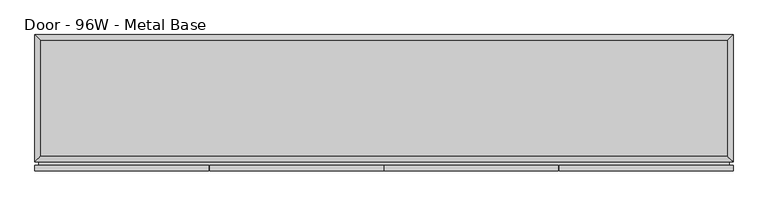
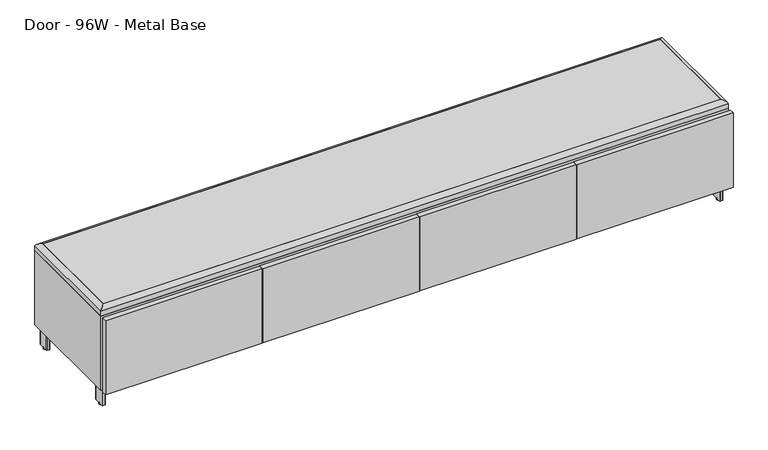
"""IFC4 building model written with IfcOpenShell, lengths in millimetres: furniture geometry, Steelcase Coalesse - Exponents - Seating - Bench : Door - 96W - Metal Base."""

from ifc_helpers import new_model, si_unit, point, frame, frame_2d, origin, origin_with_axes, place, context, project, spatial, polyline, circle_curve, ellipse_curve, trimmed, segment, composite_curve, outline, extrude, faceted_brep, source, transform, mapped, element, save
from ifc_brep_helpers import plane_surface, cylinder_surface, advanced_brep


def door_96w_metal_base_4c753da5(model_context):
    return source(origin(), model_context, "Body", "SolidModel", [
        extrude(outline(composite_curve([segment(trimmed(circle_curve(frame_2d((1831.848, 252.476)), 1.524), [point((1831.848, 254.0))], [point((1833.372, 252.476))], False, "CARTESIAN"), True, "CONTINUOUS"), segment(polyline([(1833.372, 252.476), (1833.372, 217.424)]), True, "CONTINUOUS"), segment(trimmed(circle_curve(frame_2d((1831.848, 217.424)), 1.524), [point((1833.372, 217.424))], [point((1831.848, 215.9))], False, "CARTESIAN"), True, "CONTINUOUS"), segment(polyline([(1831.848, 215.9), (1815.958829, 215.9)]), True, "CONTINUOUS"), segment(trimmed(circle_curve(frame_2d((1815.958829, 217.536829)), 1.636829), [point((1815.958829, 215.9))], [point((1814.322, 217.536829))], False, "CARTESIAN"), True, "CONTINUOUS"), segment(polyline([(1814.322, 217.536829), (1814.322, 252.476)]), True, "CONTINUOUS"), segment(trimmed(circle_curve(frame_2d((1815.846, 252.476)), 1.524), [point((1814.322, 252.476))], [point((1815.846, 254.0))], False, "CARTESIAN"), True, "CONTINUOUS"), segment(polyline([(1815.846, 254.0), (1831.848, 254.0)]), True, "CONTINUOUS")], self_intersect=False)), frame((0.0, 0.0, 6.3754), z_axis=(0.0, 0.0, 1.0), x_axis=(1.0, 0.0, 0.0)), (0.0, 0.0, 1.0), 73.152),
        extrude(outline(polyline([(2438.4, 0.0), (2438.4, -19.05), (1831.0098, -19.05), (1831.0098, 0.0), (2438.4, 0.0)])), frame((0.0, 0.0, 82.55), z_axis=(0.0, 0.0, 1.0), x_axis=(1.0, 0.0, 0.0)), (0.0, 0.0, 1.0), 304.8),
        extrude(outline(polyline([(1828.0126, 0.0), (1828.0126, -19.05), (1220.6224, -19.05), (1220.6224, 0.0), (1828.0126, 0.0)])), frame((0.0, 0.0, 82.55), z_axis=(0.0, 0.0, 1.0), x_axis=(1.0, 0.0, 0.0)), (0.0, 0.0, 1.0), 304.8),
        extrude(outline(polyline([(1217.8284, 0.0), (1217.8284, -19.05), (610.4382, -19.05), (610.4382, 0.0), (1217.8284, 0.0)])), frame((0.0, 0.0, 82.55), z_axis=(0.0, 0.0, 1.0), x_axis=(1.0, 0.0, 0.0)), (0.0, 0.0, 1.0), 304.8),
        extrude(outline(polyline([(607.3902, 0.0), (607.3902, -19.05), (0.0, -19.05), (0.0, 0.0), (607.3902, 0.0)])), frame((0.0, 0.0, 82.55), z_axis=(0.0, 0.0, 1.0), x_axis=(1.0, 0.0, 0.0)), (0.0, 0.0, 1.0), 304.8),
        extrude(outline(composite_curve([segment(trimmed(circle_curve(frame_2d((1823.8695581, 234.844279)), 6.35), [point((1817.5195581, 234.844279))], [point((1830.2195581, 234.844279))], False, "CARTESIAN"), True, "CONTINUOUS"), segment(trimmed(circle_curve(frame_2d((1823.8695581, 234.844279)), 6.35), [point((1830.2195581, 234.844279))], [point((1817.5195581, 234.844279))], False, "CARTESIAN"), True, "CONTINUOUS")], self_intersect=False)), origin_with_axes(), (0.0, 0.0, 1.0), 6.3754),
        extrude(outline(polyline([(1879.7082257, 285.75), (1879.7082257, 184.15), (1778.1082257, 184.15), (1778.1082257, 285.75), (1879.7082257, 285.75)])), frame((0.0, 0.0, 79.5274), z_axis=(0.0, 0.0, 1.0), x_axis=(1.0, 0.0, 0.0)), (0.0, 0.0, 1.0), 3.048),
        faceted_brep([(2412.619, 428.1633485, 82.55), (1833.372, 251.7961151, 82.55), (1833.372, 218.1038849, 82.55), (2412.619, 37.8529725, 82.55), (2412.619, 57.8040065, 82.55), (1843.3498412, 234.95, 82.55), (2412.619, 408.2123144, 82.55), (2412.619, 428.1633485, 34.925), (2412.619, 408.2123144, 34.925), (1843.4031998, 234.9333958, 34.925), (2412.619, 57.8040065, 34.925), (2412.619, 37.8529725, 34.925), (1833.372, 218.1038849, 34.925), (1833.372, 251.7961151, 34.925)], [[[0, 1, 2, 3, 4, 5, 6]], [[7, 8, 9, 10, 11, 12, 13]], [[1, 0, 7, 13]], [[2, 1, 13, 12]], [[3, 2, 12, 11]], [[4, 3, 11, 10]], [[5, 4, 10, 9]], [[6, 5, 9, 8]], [[0, 6, 8, 7]]]),
        extrude(outline(polyline([(1209.548, 12.7), (623.824, 12.7), (623.824, 438.15), (1209.548, 438.15), (1209.548, 12.7)])), frame((0.0, 0.0, 215.9), z_axis=(0.0, 0.0, 1.0), x_axis=(1.0, 0.0, 0.0)), (0.0, 0.0, 1.0), 19.05),
        advanced_brep(
        [(0.0, 12.7, 406.6283237), (0.0, 12.7, 387.35), (2438.4, 12.7, 387.35), (2438.4, 12.7, 406.6283237), (2438.4, 457.2, 406.6283237), (2438.4, 457.2, 387.35), (0.0, 457.2, 387.35), (0.0, 457.2, 406.6283237), (2419.35, 31.75, 406.6283237), (2419.35, 438.15, 406.6283237), (19.05, 438.15, 406.6283237), (19.05, 31.75, 406.6283237), (2419.35, 438.15, 419.0696271), (2419.35, 31.75, 419.0696271), (19.05, 31.75, 419.0696271), (19.05, 438.15, 419.0696271)],
        [
            (0, 1),
            (1, 2),
            (2, 3),
            (3, 0),
            (4, 5),
            (5, 6),
            (6, 7),
            (7, 4),
            (8, 9),
            (9, 10),
            (10, 11),
            (11, 8),
            (0, 7),
            (6, 1),
            (5, 2),
            (4, 3),
            (12, 9),
            (8, 13),
            (13, 12),
            (13, 3, ellipse_curve(frame((2417.7973666, 33.3026334, 395.8870134), z_axis=(0.7071067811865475, 0.7071067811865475, 0.0), x_axis=(-0.7071067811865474, 0.7071067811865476, 0.0)), 32.8586138, 23.2345486)),
            (4, 12, ellipse_curve(frame((2417.7973666, 436.5973666, 395.8870134), z_axis=(0.7071067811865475, -0.7071067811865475, 0.0), x_axis=(0.7071067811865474, 0.7071067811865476, 0.0)), 32.8586138, 23.2345486)),
            (11, 14),
            (14, 13),
            (14, 0, ellipse_curve(frame((20.6026334, 33.3026334, 395.8870134), z_axis=(0.7071067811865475, -0.7071067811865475, 0.0), x_axis=(0.7071067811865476, 0.7071067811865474, 0.0)), 32.8586138, 23.2345486)),
            (10, 15),
            (15, 14),
            (15, 7, ellipse_curve(frame((20.6026334, 436.5973666, 395.8870134), z_axis=(-0.7071067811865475, -0.7071067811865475, 0.0), x_axis=(0.7071067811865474, -0.7071067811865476, 0.0)), 32.8586138, 23.2345486)),
            (12, 15),
        ],
        [
            plane_surface(frame((0.0, 12.7, 406.6283237), z_axis=(0.0, -1.0, 0.0), x_axis=(-1.0, 0.0, 0.0))),
            plane_surface(frame((0.0, 457.2, 406.6283237), z_axis=(0.0, 1.0, 0.0), x_axis=(1.0, 0.0, 0.0))),
            plane_surface(frame((2438.4, 12.7, 406.6283237), z_axis=(0.0, 0.0, 1.0), x_axis=(0.0, 1.0, 0.0))),
            plane_surface(frame((0.0, 12.7, 406.6283237), z_axis=(-1.0, 0.0, 1.677988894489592e-12), x_axis=(0.0, 1.0, 0.0))),
            plane_surface(frame((0.0, 12.7, 387.35), z_axis=(0.0, 0.0, -1.0), x_axis=(0.0, 1.0, 0.0))),
            plane_surface(frame((2438.4, 12.7, 387.35), z_axis=(1.0, 0.0, 0.0), x_axis=(0.0, 1.0, 0.0))),
            plane_surface(frame((2419.35, 438.15, 406.6284102), z_axis=(-1.0, 0.0, 0.0), x_axis=(0.0, -1.0, 0.0))),
            cylinder_surface(frame((2417.7973666, 457.2, 395.8870134), z_axis=(0.0, 1.0, 0.0), x_axis=(1.0, 0.0, 0.0)), 23.2345486),
            plane_surface(frame((2419.35, 31.75, 406.6284102), z_axis=(0.0, 1.0, 0.0), x_axis=(-1.0, 0.0, 0.0))),
            cylinder_surface(frame((2438.4, 33.3026334, 395.8870134), z_axis=(1.0, 0.0, 0.0), x_axis=(0.0, -1.0, 0.0)), 23.2345486),
            plane_surface(frame((19.05, 31.75, 406.6284102), z_axis=(1.0, 0.0, 0.0), x_axis=(0.0, 1.0, 0.0))),
            cylinder_surface(frame((20.6026334, 12.7, 395.8870134), z_axis=(0.0, -1.0, 0.0), x_axis=(-1.0, 0.0, 0.0)), 23.2345486),
            plane_surface(frame((19.05, 438.15, 406.6284102), z_axis=(0.0, -1.0, 0.0), x_axis=(1.0, 0.0, 0.0))),
            cylinder_surface(frame((0.0, 436.5973666, 395.8870134), z_axis=(-1.0, 0.0, 0.0), x_axis=(0.0, 1.0, 0.0)), 23.2345486),
        ],
        [
            (0, [[1, 2, 3, 4]]),
            (1, [[5, 6, 7, 8]]),
            (2, [[9, 10, 11, 12]]),
            (3, [[-1, 13, -7, 14]]),
            (4, [[-2, -14, -6, 15]]),
            (5, [[-3, -15, -5, 16]]),
            (6, [[17, -9, 18, 19]]),
            (7, [[-19, 20, -16, 21]]),
            (8, [[-18, -12, 22, 23]]),
            (9, [[-20, -23, 24, -4]]),
            (10, [[-22, -11, 25, 26]]),
            (11, [[-24, -26, 27, -13]]),
            (12, [[-17, 28, -25, -10]]),
            (13, [[-21, -8, -27, -28]]),
        ],
    ),
        extrude(outline(polyline([(1814.322, 12.7), (1228.598, 12.7), (1228.598, 438.15), (1814.322, 438.15), (1814.322, 12.7)])), frame((0.0, 0.0, 215.9), z_axis=(0.0, 0.0, 1.0), x_axis=(1.0, 0.0, 0.0)), (0.0, 0.0, 1.0), 19.05),
        extrude(outline(composite_curve([segment(trimmed(circle_curve(frame_2d((1219.3711957, 234.844279)), 6.35), [point((1213.0211957, 234.844279))], [point((1225.7211957, 234.844279))], False, "CARTESIAN"), True, "CONTINUOUS"), segment(trimmed(circle_curve(frame_2d((1219.3711957, 234.844279)), 6.35), [point((1225.7211957, 234.844279))], [point((1213.0211957, 234.844279))], False, "CARTESIAN"), True, "CONTINUOUS")], self_intersect=False)), origin_with_axes(), (0.0, 0.0, 1.0), 6.3754),
        extrude(outline(composite_curve([segment(trimmed(circle_curve(frame_2d((1227.074, 252.476)), 1.524), [point((1227.074, 254.0))], [point((1228.598, 252.476))], False, "CARTESIAN"), True, "CONTINUOUS"), segment(polyline([(1228.598, 252.476), (1228.598, 217.424)]), True, "CONTINUOUS"), segment(trimmed(circle_curve(frame_2d((1227.074, 217.424)), 1.524), [point((1228.598, 217.424))], [point((1227.074, 215.9))], False, "CARTESIAN"), True, "CONTINUOUS"), segment(polyline([(1227.074, 215.9), (1211.184829, 215.9)]), True, "CONTINUOUS"), segment(trimmed(circle_curve(frame_2d((1211.184829, 217.536829)), 1.636829), [point((1211.184829, 215.9))], [point((1209.548, 217.536829))], False, "CARTESIAN"), True, "CONTINUOUS"), segment(polyline([(1209.548, 217.536829), (1209.548, 252.476)]), True, "CONTINUOUS"), segment(trimmed(circle_curve(frame_2d((1211.072, 252.476)), 1.524), [point((1209.548, 252.476))], [point((1211.072, 254.0))], False, "CARTESIAN"), True, "CONTINUOUS"), segment(polyline([(1211.072, 254.0), (1227.074, 254.0)]), True, "CONTINUOUS")], self_intersect=False)), frame((0.0, 0.0, 6.3754), z_axis=(0.0, 0.0, 1.0), x_axis=(1.0, 0.0, 0.0)), (0.0, 0.0, 1.0), 73.152),
        extrude(outline(polyline([(1265.2060257, 285.75), (1265.2060257, 184.15), (1163.6060257, 184.15), (1163.6060257, 285.75), (1265.2060257, 285.75)])), frame((0.0, 0.0, 79.5274), z_axis=(0.0, 0.0, 1.0), x_axis=(1.0, 0.0, 0.0)), (0.0, 0.0, 1.0), 3.048),
        extrude(outline(composite_curve([segment(trimmed(circle_curve(frame_2d((614.4757069, 234.844279)), 6.35), [point((608.1257069, 234.844279))], [point((620.8257069, 234.844279))], False, "CARTESIAN"), True, "CONTINUOUS"), segment(trimmed(circle_curve(frame_2d((614.4757069, 234.844279)), 6.35), [point((620.8257069, 234.844279))], [point((608.1257069, 234.844279))], False, "CARTESIAN"), True, "CONTINUOUS")], self_intersect=False)), origin_with_axes(), (0.0, 0.0, 1.0), 6.3754),
        extrude(outline(composite_curve([segment(trimmed(circle_curve(frame_2d((622.3, 252.476)), 1.524), [point((622.3, 254.0))], [point((623.824, 252.476))], False, "CARTESIAN"), True, "CONTINUOUS"), segment(polyline([(623.824, 252.476), (623.824, 217.424)]), True, "CONTINUOUS"), segment(trimmed(circle_curve(frame_2d((622.3, 217.424)), 1.524), [point((623.824, 217.424))], [point((622.3, 215.9))], False, "CARTESIAN"), True, "CONTINUOUS"), segment(polyline([(622.3, 215.9), (606.410829, 215.9)]), True, "CONTINUOUS"), segment(trimmed(circle_curve(frame_2d((606.410829, 217.536829)), 1.636829), [point((606.410829, 215.9))], [point((604.774, 217.536829))], False, "CARTESIAN"), True, "CONTINUOUS"), segment(polyline([(604.774, 217.536829), (604.774, 252.476)]), True, "CONTINUOUS"), segment(trimmed(circle_curve(frame_2d((606.298, 252.476)), 1.524), [point((604.774, 252.476))], [point((606.298, 254.0))], False, "CARTESIAN"), True, "CONTINUOUS"), segment(polyline([(606.298, 254.0), (622.3, 254.0)]), True, "CONTINUOUS")], self_intersect=False)), frame((0.0, 0.0, 6.3754), z_axis=(0.0, 0.0, 1.0), x_axis=(1.0, 0.0, 0.0)), (0.0, 0.0, 1.0), 73.152),
        extrude(outline(polyline([(1833.372, 438.15), (1833.372, 0.0), (1814.322, 0.0), (1814.322, 438.15), (1833.372, 438.15)])), frame((0.0, 0.0, 101.8032), z_axis=(0.0, 0.0, 1.0), x_axis=(1.0, 0.0, 0.0)), (0.0, 0.0, 1.0), 266.2936),
        extrude(outline(polyline([(1228.598, 438.15), (1228.598, 0.0), (1209.548, 0.0), (1209.548, 438.15), (1228.598, 438.15)])), frame((0.0, 0.0, 101.6), z_axis=(0.0, 0.0, 1.0), x_axis=(1.0, 0.0, 0.0)), (0.0, 0.0, 1.0), 266.7),
        faceted_brep([(2438.4, 12.7, 387.35), (0.0, 12.7, 387.35), (0.0, 12.7, 82.55), (2438.4, 12.7, 82.55), (19.05, 12.7, 368.0968), (604.774, 12.7, 368.0968), (604.774, 12.7, 101.8032), (19.05, 12.7, 101.8032), (623.824, 12.7, 368.0968), (2419.35, 12.7, 368.0968), (2419.35, 12.7, 101.8032), (623.824, 12.7, 101.8032), (2438.4, 457.2, 387.35), (2438.4, 457.2, 82.55), (0.0, 457.2, 82.55), (0.0, 457.2, 387.35), (604.774, 438.15, 368.0968), (19.05, 438.15, 368.0968), (19.05, 438.15, 101.8032), (604.774, 438.15, 101.8032), (2419.35, 438.15, 368.0968), (623.824, 438.15, 368.0968), (623.824, 438.15, 101.8032), (2419.35, 438.15, 101.8032)], [[[0, 1, 2, 3], [4, 5, 6, 7], [8, 9, 10, 11]], [[12, 13, 14, 15]], [[1, 0, 12, 15]], [[2, 1, 15, 14]], [[3, 2, 14, 13]], [[0, 3, 13, 12]], [[16, 17, 18, 19]], [[20, 21, 22, 23]], [[17, 16, 5, 4]], [[18, 17, 4, 7]], [[19, 18, 7, 6]], [[16, 19, 6, 5]], [[21, 20, 9, 8]], [[22, 21, 8, 11]], [[23, 22, 11, 10]], [[20, 23, 10, 9]]]),
        extrude(outline(polyline([(660.4, 285.75), (660.4, 184.15), (558.8, 184.15), (558.8, 285.75), (660.4, 285.75)])), frame((0.0, 0.0, 79.5274), z_axis=(0.0, 0.0, 1.0), x_axis=(1.0, 0.0, 0.0)), (0.0, 0.0, 1.0), 3.048),
        extrude(outline(composite_curve([segment(trimmed(circle_curve(frame_2d((19.163053, 47.5933344)), 6.35), [point((25.513053, 47.5933344))], [point((12.813053, 47.5933344))], False, "CARTESIAN"), True, "CONTINUOUS"), segment(trimmed(circle_curve(frame_2d((19.163053, 47.5933344)), 6.35), [point((12.813053, 47.5933344))], [point((25.513053, 47.5933344))], False, "CARTESIAN"), True, "CONTINUOUS")], self_intersect=False)), origin_with_axes(), (0.0, 0.0, 1.0), 6.3754),
        extrude(outline(composite_curve([segment(trimmed(circle_curve(frame_2d((14.224, 26.924)), 1.524), [point((14.224, 25.4))], [point((12.7, 26.924))], False, "CARTESIAN"), True, "CONTINUOUS"), segment(polyline([(12.7, 26.924), (12.7, 68.326)]), True, "CONTINUOUS"), segment(trimmed(circle_curve(frame_2d((14.224, 68.326)), 1.524), [point((12.7, 68.326))], [point((14.224, 69.85))], False, "CARTESIAN"), True, "CONTINUOUS"), segment(polyline([(14.224, 69.85), (23.661571, 69.85)]), True, "CONTINUOUS"), segment(trimmed(circle_curve(frame_2d((23.661571, 68.213171)), 1.636829), [point((23.661571, 69.85))], [point((25.2984, 68.213171))], False, "CARTESIAN"), True, "CONTINUOUS"), segment(polyline([(25.2984, 68.213171), (25.2984, 26.924)]), True, "CONTINUOUS"), segment(trimmed(circle_curve(frame_2d((23.7744, 26.924)), 1.524), [point((25.2984, 26.924))], [point((23.7744, 25.4))], False, "CARTESIAN"), True, "CONTINUOUS"), segment(polyline([(23.7744, 25.4), (14.224, 25.4)]), True, "CONTINUOUS")], self_intersect=False)), frame((0.0, 0.0, 6.3754), z_axis=(0.0, 0.0, 1.0), x_axis=(1.0, 0.0, 0.0)), (0.0, 0.0, 1.0), 73.152),
        extrude(outline(polyline([(6.35, 19.05), (6.35, 120.65), (107.95, 120.65), (107.95, 19.05), (6.35, 19.05)])), frame((0.0, 0.0, 79.5274), z_axis=(0.0, 0.0, 1.0), x_axis=(1.0, 0.0, 0.0)), (0.0, 0.0, 1.0), 3.048),
        extrude(outline(composite_curve([segment(trimmed(circle_curve(frame_2d((19.163053, 422.3066656)), 6.35), [point((25.513053, 422.3066656))], [point((12.813053, 422.3066656))], False, "CARTESIAN"), True, "CONTINUOUS"), segment(trimmed(circle_curve(frame_2d((19.163053, 422.3066656)), 6.35), [point((12.813053, 422.3066656))], [point((25.513053, 422.3066656))], False, "CARTESIAN"), True, "CONTINUOUS")], self_intersect=False)), origin_with_axes(), (0.0, 0.0, 1.0), 6.3754),
        extrude(outline(composite_curve([segment(polyline([(14.224, 444.5), (23.7744, 444.5)]), True, "CONTINUOUS"), segment(trimmed(circle_curve(frame_2d((23.7744, 442.976)), 1.524), [point((23.7744, 444.5))], [point((25.2984, 442.976))], False, "CARTESIAN"), True, "CONTINUOUS"), segment(polyline([(25.2984, 442.976), (25.2984, 401.686829)]), True, "CONTINUOUS"), segment(trimmed(circle_curve(frame_2d((23.661571, 401.686829)), 1.636829), [point((25.2984, 401.686829))], [point((23.661571, 400.05))], False, "CARTESIAN"), True, "CONTINUOUS"), segment(polyline([(23.661571, 400.05), (14.224, 400.05)]), True, "CONTINUOUS"), segment(trimmed(circle_curve(frame_2d((14.224, 401.574)), 1.524), [point((14.224, 400.05))], [point((12.7, 401.574))], False, "CARTESIAN"), True, "CONTINUOUS"), segment(polyline([(12.7, 401.574), (12.7, 442.976)]), True, "CONTINUOUS"), segment(trimmed(circle_curve(frame_2d((14.224, 442.976)), 1.524), [point((12.7, 442.976))], [point((14.224, 444.5))], False, "CARTESIAN"), True, "CONTINUOUS")], self_intersect=False)), frame((0.0, 0.0, 6.3754), z_axis=(0.0, 0.0, 1.0), x_axis=(1.0, 0.0, 0.0)), (0.0, 0.0, 1.0), 73.152),
        extrude(outline(polyline([(6.35, 450.85), (107.95, 450.85), (107.95, 349.25), (6.35, 349.25), (6.35, 450.85)])), frame((0.0, 0.0, 79.5274), z_axis=(0.0, 0.0, 1.0), x_axis=(1.0, 0.0, 0.0)), (0.0, 0.0, 1.0), 3.048),
        extrude(outline(composite_curve([segment(trimmed(circle_curve(frame_2d((2419.0706, 47.5933344)), 6.35), [point((2412.7206, 47.5933344))], [point((2425.4206, 47.5933344))], False, "CARTESIAN"), True, "CONTINUOUS"), segment(trimmed(circle_curve(frame_2d((2419.0706, 47.5933344)), 6.35), [point((2425.4206, 47.5933344))], [point((2412.7206, 47.5933344))], False, "CARTESIAN"), True, "CONTINUOUS")], self_intersect=False)), origin_with_axes(), (0.0, 0.0, 1.0), 6.3754),
        extrude(outline(composite_curve([segment(polyline([(2423.8966, 25.4), (2414.143, 25.4)]), True, "CONTINUOUS"), segment(trimmed(circle_curve(frame_2d((2414.143, 26.924)), 1.524), [point((2414.143, 25.4))], [point((2412.619, 26.924))], False, "CARTESIAN"), True, "CONTINUOUS"), segment(polyline([(2412.619, 26.924), (2412.619, 68.213171)]), True, "CONTINUOUS"), segment(trimmed(circle_curve(frame_2d((2414.255829, 68.213171)), 1.636829), [point((2412.619, 68.213171))], [point((2414.255829, 69.85))], False, "CARTESIAN"), True, "CONTINUOUS"), segment(polyline([(2414.255829, 69.85), (2423.8966, 69.85)]), True, "CONTINUOUS"), segment(trimmed(circle_curve(frame_2d((2423.8966, 68.326)), 1.524), [point((2423.8966, 69.85))], [point((2425.4206, 68.326))], False, "CARTESIAN"), True, "CONTINUOUS"), segment(polyline([(2425.4206, 68.326), (2425.4206, 26.924)]), True, "CONTINUOUS"), segment(trimmed(circle_curve(frame_2d((2423.8966, 26.924)), 1.524), [point((2425.4206, 26.924))], [point((2423.8966, 25.4))], False, "CARTESIAN"), True, "CONTINUOUS")], self_intersect=False)), frame((0.0, 0.0, 6.3754), z_axis=(0.0, 0.0, 1.0), x_axis=(1.0, 0.0, 0.0)), (0.0, 0.0, 1.0), 73.152),
        extrude(outline(polyline([(2432.01225, 19.05), (2330.45, 19.05), (2330.45, 120.65), (2432.01225, 120.65), (2432.01225, 19.05)])), frame((0.0, 0.0, 79.5274), z_axis=(0.0, 0.0, 1.0), x_axis=(1.0, 0.0, 0.0)), (0.0, 0.0, 1.0), 3.048),
        extrude(outline(polyline([(25.2984, 432.1805995), (604.774, 251.858551), (604.774, 218.041449), (25.2984, 37.7194005), (25.2984, 57.6704345), (594.9968002, 234.95), (25.2984, 412.2295655), (25.2984, 432.1805995)])), frame((0.0, 0.0, 34.925), z_axis=(0.0, 0.0, 1.0), x_axis=(1.0, 0.0, 0.0)), (0.0, 0.0, 1.0), 47.625),
        extrude(outline(composite_curve([segment(trimmed(circle_curve(frame_2d((2419.0706, 422.3066656)), 6.35), [point((2412.7206, 422.3066656))], [point((2425.4206, 422.3066656))], False, "CARTESIAN"), True, "CONTINUOUS"), segment(trimmed(circle_curve(frame_2d((2419.0706, 422.3066656)), 6.35), [point((2425.4206, 422.3066656))], [point((2412.7206, 422.3066656))], False, "CARTESIAN"), True, "CONTINUOUS")], self_intersect=False)), origin_with_axes(), (0.0, 0.0, 1.0), 6.3754),
        extrude(outline(composite_curve([segment(trimmed(circle_curve(frame_2d((2423.8966, 442.976)), 1.524), [point((2423.8966, 444.5))], [point((2425.4206, 442.976))], False, "CARTESIAN"), True, "CONTINUOUS"), segment(polyline([(2425.4206, 442.976), (2425.4206, 401.574)]), True, "CONTINUOUS"), segment(trimmed(circle_curve(frame_2d((2423.8966, 401.574)), 1.524), [point((2425.4206, 401.574))], [point((2423.8966, 400.05))], False, "CARTESIAN"), True, "CONTINUOUS"), segment(polyline([(2423.8966, 400.05), (2414.255829, 400.05)]), True, "CONTINUOUS"), segment(trimmed(circle_curve(frame_2d((2414.255829, 401.686829)), 1.636829), [point((2414.255829, 400.05))], [point((2412.619, 401.686829))], False, "CARTESIAN"), True, "CONTINUOUS"), segment(polyline([(2412.619, 401.686829), (2412.619, 442.976)]), True, "CONTINUOUS"), segment(trimmed(circle_curve(frame_2d((2414.143, 442.976)), 1.524), [point((2412.619, 442.976))], [point((2414.143, 444.5))], False, "CARTESIAN"), True, "CONTINUOUS"), segment(polyline([(2414.143, 444.5), (2423.8966, 444.5)]), True, "CONTINUOUS")], self_intersect=False)), frame((0.0, 0.0, 6.3754), z_axis=(0.0, 0.0, 1.0), x_axis=(1.0, 0.0, 0.0)), (0.0, 0.0, 1.0), 73.152),
        extrude(outline(polyline([(2432.01225, 450.85), (2432.01225, 349.25), (2330.45, 349.25), (2330.45, 450.85), (2432.01225, 450.85)])), frame((0.0, 0.0, 79.5274), z_axis=(0.0, 0.0, 1.0), x_axis=(1.0, 0.0, 0.0)), (0.0, 0.0, 1.0), 3.048),
        extrude(outline(polyline([(2419.35, 31.75), (19.05, 31.75), (19.05, 438.15), (2419.35, 438.15), (2419.35, 31.75)])), frame((0.0, 0.0, 406.6283237), z_axis=(0.0, 0.0, 1.0), x_axis=(1.0, 0.0, 0.0)), (0.0, 0.0, 1.0), 12.4413034),
        extrude(outline(polyline([(374.4468, 2425.4206), (374.4468, 12.7), (95.4532, 12.7), (95.4532, 2425.4206), (374.4468, 2425.4206)]), holes=[polyline([(368.0968, 623.824), (368.0968, 2419.35), (101.8032, 2419.35), (101.8032, 623.824), (368.0968, 623.824)]), polyline([(368.0968, 604.774), (101.8032, 604.774), (101.8032, 19.05), (368.0968, 19.05), (368.0968, 604.774)])]), frame((0.0, 0.0, 0.0), z_axis=(0.0, 1.0, 0.0), x_axis=(0.0, 0.0, 1.0)), (0.0, 0.0, 1.0), 12.7),
    ])


if __name__ == "__main__":
    model = new_model("IFC4")
    model_context = context("Model", 3, world=origin())
    ifc_project = project(units=[si_unit("LENGTHUNIT", "METRE", prefix="MILLI")], contexts=[model_context])
    site = spatial("IfcSite", under=ifc_project)
    building = spatial("IfcBuilding", under=site)
    placement = place(None, origin())
    door_96w_metal_base_shape = door_96w_metal_base_4c753da5(model_context)
    element("IfcFurniture", 1, ObjectType="Steelcase Coalesse - Exponents - Seating - Bench : Door - 96W - Metal Base", at=placement, inside=building, context=model_context, shape_type="MappedRepresentation", body=[
        mapped(door_96w_metal_base_shape, transform((0.0, 0.0, 0.0), x_axis=(1.0, 0.0, 0.0), y_axis=(0.0, 1.0, 0.0), z_axis=(0.0, 0.0, 1.0))),
    ])
    save(model, "model.ifc")
